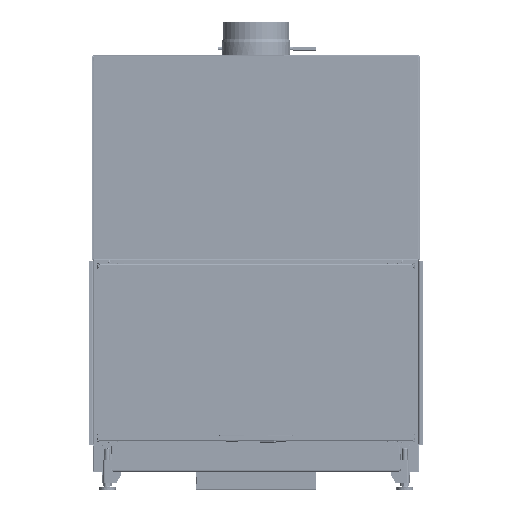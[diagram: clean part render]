
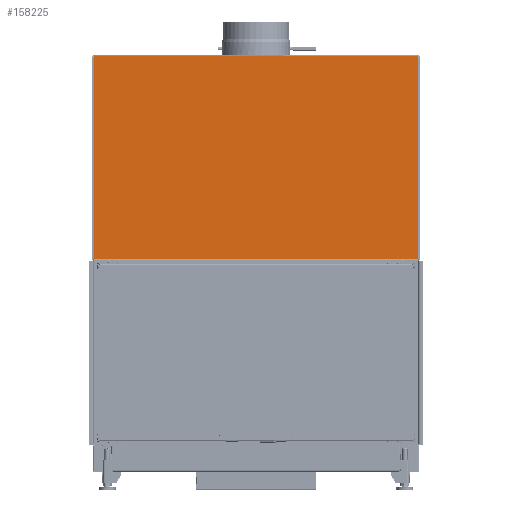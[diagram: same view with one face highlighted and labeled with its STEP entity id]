
A CAD part, front view. The second image highlights one B-rep face of the part: STEP entity #158225.
In plain terms, the highlighted planar face has unit normal (0, -1, 0).
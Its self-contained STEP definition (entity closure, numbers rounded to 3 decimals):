
#7129=FACE_OUTER_BOUND('',#15808,.T.);
#15808=EDGE_LOOP('',(#107294,#107295,#107296,#107297,#107298,#107299));
#32145=LINE('',#237700,#48019);
#32150=LINE('',#237788,#48024);
#32158=LINE('',#238007,#48032);
#32159=LINE('',#238009,#48033);
#32160=LINE('',#238013,#48034);
#32163=LINE('',#238019,#48037);
#48019=VECTOR('',#187922,10.);
#48024=VECTOR('',#187939,10.);
#48032=VECTOR('',#187961,10.);
#48033=VECTOR('',#187964,10.);
#48034=VECTOR('',#187971,10.);
#48037=VECTOR('',#187980,10.);
#63979=VERTEX_POINT('',#237681);
#63980=VERTEX_POINT('',#237692);
#63986=VERTEX_POINT('',#237781);
#63988=VERTEX_POINT('',#237787);
#63997=VERTEX_POINT('',#237998);
#63998=VERTEX_POINT('',#238005);
#80230=EDGE_CURVE('',#63980,#63979,#32145,.T.);
#80242=EDGE_CURVE('',#63988,#63979,#32150,.T.);
#80266=EDGE_CURVE('',#63997,#63998,#32158,.T.);
#80267=EDGE_CURVE('',#63986,#63988,#32159,.T.);
#80269=EDGE_CURVE('',#63998,#63986,#32160,.T.);
#80273=EDGE_CURVE('',#63980,#63997,#32163,.T.);
#107294=ORIENTED_EDGE('',*,*,#80267,.T.);
#107295=ORIENTED_EDGE('',*,*,#80242,.T.);
#107296=ORIENTED_EDGE('',*,*,#80230,.F.);
#107297=ORIENTED_EDGE('',*,*,#80273,.T.);
#107298=ORIENTED_EDGE('',*,*,#80266,.T.);
#107299=ORIENTED_EDGE('',*,*,#80269,.T.);
#148686=PLANE('',#168059);
#158225=ADVANCED_FACE('',(#7129),#148686,.T.);
#168059=AXIS2_PLACEMENT_3D('',#238018,#187978,#187979);
#187922=DIRECTION('',(1.,0.,0.));
#187939=DIRECTION('',(0.,0.,1.));
#187961=DIRECTION('',(0.,0.,-1.));
#187964=DIRECTION('',(0.,0.,1.));
#187971=DIRECTION('',(1.,0.,0.));
#187978=DIRECTION('center_axis',(0.,-1.,0.));
#187979=DIRECTION('ref_axis',(1.,0.,0.));
#187980=DIRECTION('',(0.,0.,-1.));
#237681=CARTESIAN_POINT('',(485.75,-328.496,1242.25));
#237692=CARTESIAN_POINT('',(-485.75,-328.496,1242.25));
#237700=CARTESIAN_POINT('',(0.,-328.496,1242.25));
#237781=CARTESIAN_POINT('',(485.75,-328.496,635.25));
#237787=CARTESIAN_POINT('',(485.75,-328.496,1241.57));
#237788=CARTESIAN_POINT('',(485.75,-328.496,808.846));
#237998=CARTESIAN_POINT('',(-485.75,-328.496,1241.57));
#238005=CARTESIAN_POINT('',(-485.75,-328.496,635.25));
#238007=CARTESIAN_POINT('',(-485.75,-328.496,1112.346));
#238009=CARTESIAN_POINT('',(485.75,-328.496,808.846));
#238013=CARTESIAN_POINT('',(244.25,-328.496,635.25));
#238018=CARTESIAN_POINT('Origin',(0.,-328.496,
982.441));
#238019=CARTESIAN_POINT('',(-485.75,-328.496,1112.346));
